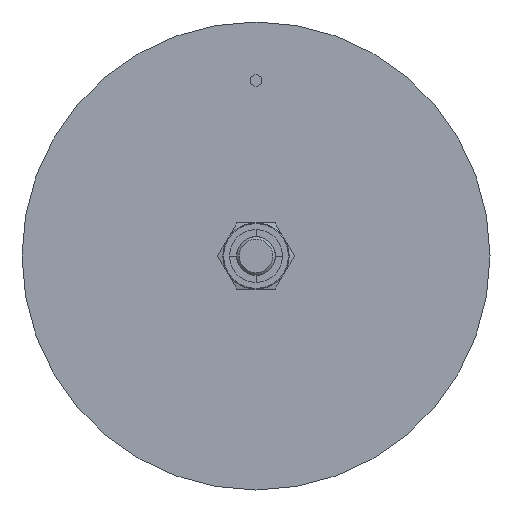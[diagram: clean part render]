
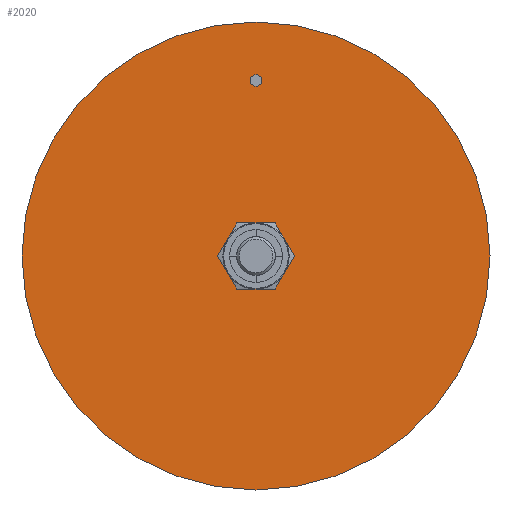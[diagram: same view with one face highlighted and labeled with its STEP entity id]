
A CAD part, front view. The second image highlights one B-rep face of the part: STEP entity #2020.
In plain terms, the highlighted planar face has unit normal (0, -1, 0).
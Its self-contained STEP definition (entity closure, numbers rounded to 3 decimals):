
#41=FACE_BOUND('',#487,.T.);
#42=FACE_BOUND('',#488,.T.);
#165=PLANE('',#2314);
#335=FACE_OUTER_BOUND('',#486,.T.);
#486=EDGE_LOOP('',(#1813));
#487=EDGE_LOOP('',(#1814));
#488=EDGE_LOOP('',(#1815));
#810=CIRCLE('',#2271,1.5);
#812=CIRCLE('',#2274,5.25);
#833=CIRCLE('',#2315,60.);
#984=VERTEX_POINT('',#3558);
#986=VERTEX_POINT('',#3564);
#1007=VERTEX_POINT('',#3636);
#1246=EDGE_CURVE('',#984,#984,#810,.T.);
#1249=EDGE_CURVE('',#986,#986,#812,.T.);
#1280=EDGE_CURVE('',#1007,#1007,#833,.T.);
#1813=ORIENTED_EDGE('',*,*,#1280,.F.);
#1814=ORIENTED_EDGE('',*,*,#1246,.T.);
#1815=ORIENTED_EDGE('',*,*,#1249,.T.);
#2020=ADVANCED_FACE('',(#335,#41,#42),#165,.T.);
#2271=AXIS2_PLACEMENT_3D('',#3559,#2820,#2821);
#2274=AXIS2_PLACEMENT_3D('',#3565,#2827,#2828);
#2314=AXIS2_PLACEMENT_3D('',#3635,#2917,#2918);
#2315=AXIS2_PLACEMENT_3D('',#3637,#2919,#2920);
#2820=DIRECTION('center_axis',(0.,1.,0.));
#2821=DIRECTION('ref_axis',(1.,0.,0.));
#2827=DIRECTION('center_axis',(0.,1.,0.));
#2828=DIRECTION('ref_axis',(1.,0.,0.));
#2917=DIRECTION('center_axis',(0.,-1.,0.));
#2918=DIRECTION('ref_axis',(0.,0.,-1.));
#2919=DIRECTION('center_axis',(0.,1.,0.));
#2920=DIRECTION('ref_axis',(1.,0.,0.));
#3558=CARTESIAN_POINT('',(-1.5,-97.,45.));
#3559=CARTESIAN_POINT('Origin',(0.,-97.,45.));
#3564=CARTESIAN_POINT('',(-5.25,-97.,0.));
#3565=CARTESIAN_POINT('Origin',(0.,-97.,0.));
#3635=CARTESIAN_POINT('Origin',(0.,-97.,60.));
#3636=CARTESIAN_POINT('',(0.,-97.,-60.));
#3637=CARTESIAN_POINT('Origin',(0.,-97.,0.));
